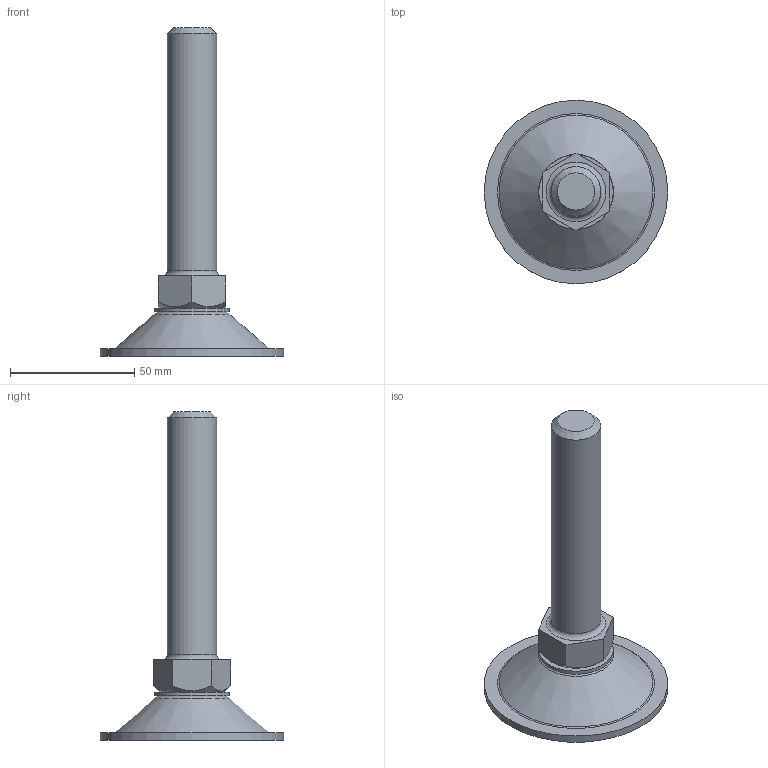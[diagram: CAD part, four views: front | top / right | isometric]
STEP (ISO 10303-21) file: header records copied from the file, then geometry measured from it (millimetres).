
FILE_DESCRIPTION(/* description */ (''),/* implementation_level */ '2;1');
FILE_NAME(/* name */ 'D:\조절자\PF\PF-M20-100L.stp',/* time_stamp */ '2016-03-14T14:55:08+09:00',/* author */ ('GS-DT-1-001'),/* organization */ (''),/* preprocessor_version */ 'ST-DEVELOPER v15.6',/* originating_system */ 'Autodesk Inventor LT ',/* authorisation */ '');
FILE_SCHEMA (('AUTOMOTIVE_DESIGN { 1 0 10303 214 3 1 1 }'));
Length unit declared in the file: millimetre
Products named in the file (1): PF-M20-100L
Bounding box: 74 x 74 x 132.5 mm (x, y, z)
Volume: 54567.5 mm3; surface area: 21248.6 mm2
Topology: 3 solids, 3 shells, 31 faces, 64 edges, 42 vertices
Faces by surface type: plane 15, cylinder 6, torus 5, cone 5
Full cylindrical faces by diameter (mm): 7.153 x1, 8.2 x1, 8.8 x1, 20 x1, 30 x1, 74 x1
Entity records: 706 total; most frequent: DIRECTION 122, CARTESIAN_POINT 120, ORIENTED_EDGE 82, AXIS2_PLACEMENT_3D 55, EDGE_LOOP 54, EDGE_CURVE 41, VERTEX_POINT 35, FACE_OUTER_BOUND 31
